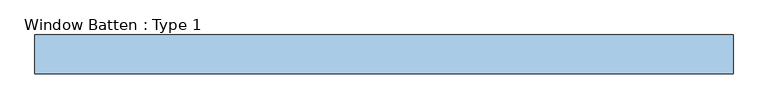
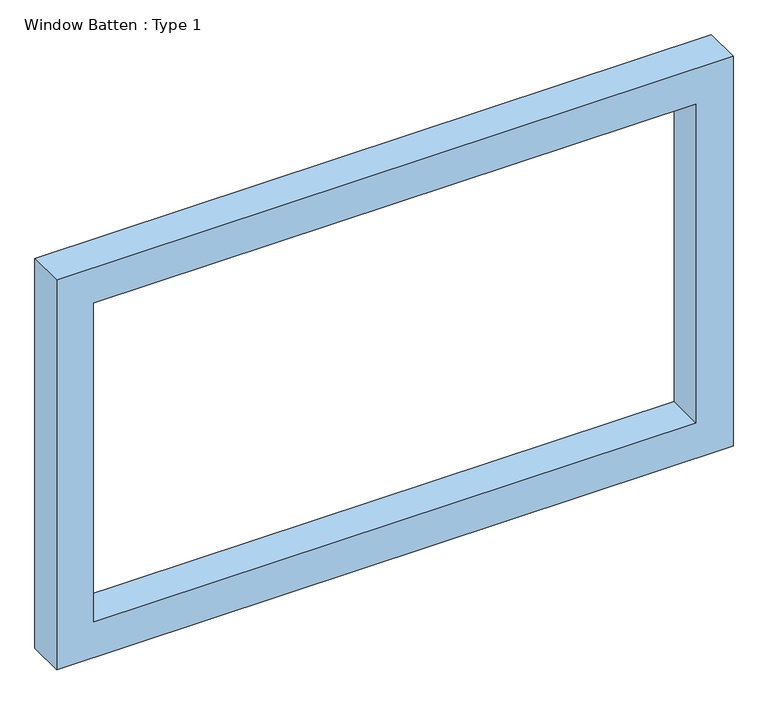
"""IFC4 building model written with IfcOpenShell, lengths in millimetres: window geometry, Window Batten : Type 1."""

from ifc_helpers import new_model, si_unit, frame, origin, place, context, project, spatial, polyline, outline, extrude, source, transform, mapped, element, save


def window_batten_type_1_cf321a79(model_context):
    return source(origin(), model_context, "Body", "SweptSolid", [
        extrude(outline(polyline([(2708.8484214, -1681.3014342), (508.5151983, -1681.3014342), (508.5151983, 1931.3014342), (2708.8484214, 1931.3014342), (2708.8484214, -1681.3014342)]), holes=[polyline([(2508.8484214, -1481.3014342), (2508.8484214, 1731.3014342), (708.5151983, 1731.3014342), (708.5151983, -1481.3014342), (2508.8484214, -1481.3014342)])]), frame((0.0, -310.0, 0.0), z_axis=(0.0, 1.0, 0.0), x_axis=(0.0, 0.0, 1.0)), (0.0, 0.0, 1.0), 200.0),
    ])


if __name__ == "__main__":
    model = new_model("IFC4")
    model_context = context("Model", 3, world=origin())
    ifc_project = project(units=[si_unit("LENGTHUNIT", "METRE", prefix="MILLI")], contexts=[model_context])
    site = spatial("IfcSite", under=ifc_project)
    building = spatial("IfcBuilding", under=site)
    placement = place(None, origin())
    window_batten_type_1_shape = window_batten_type_1_cf321a79(model_context)
    element("IfcWindow", 1, ObjectType="Window Batten : Type 1", at=placement, inside=building, context=model_context, shape_type="MappedRepresentation", body=[
        mapped(window_batten_type_1_shape, transform((0.0, 0.0, 0.0), x_axis=(1.0, 0.0, 0.0), y_axis=(0.0, 1.0, 0.0), z_axis=(0.0, 0.0, 1.0))),
    ])
    save(model, "model.ifc")
